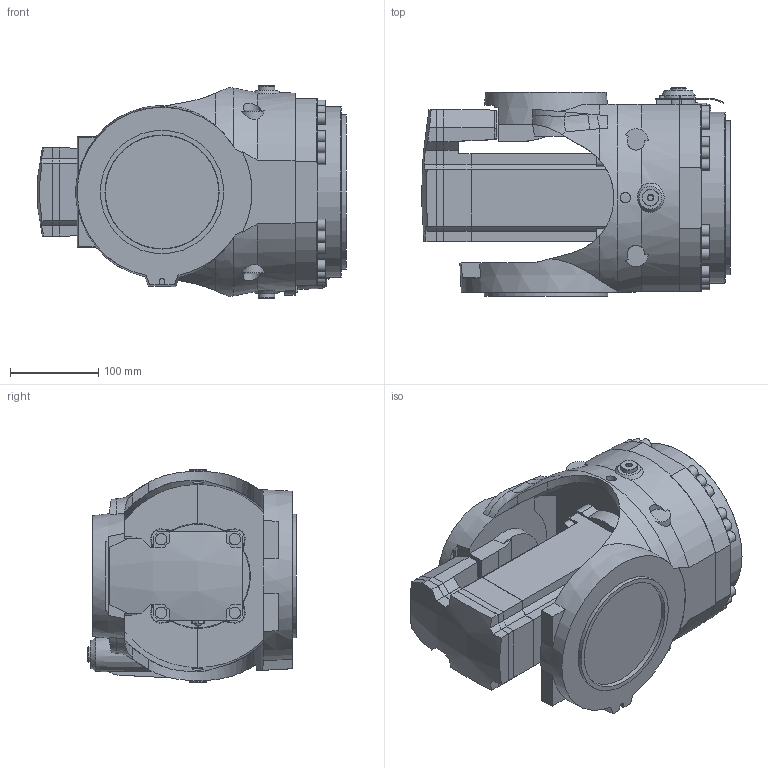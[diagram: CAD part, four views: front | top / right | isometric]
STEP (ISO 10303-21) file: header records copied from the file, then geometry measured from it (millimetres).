
FILE_DESCRIPTION (( 'STEP AP214' ), '1' );
FILE_NAME ('IRB77X0_All-330_OC_00_LINK05_CAD.step', '2026-01-28T10:08:33', ( '' ), ( '' ), 'SwSTEP 2.0', 'SolidWorks 2024', '' );
FILE_SCHEMA (( 'AUTOMOTIVE_DESIGN' ));
Length unit declared in the file: millimetre
Products named in the file (1): IRB77X0_All-330_OC_00_LINK05_CAD
Bounding box: 350.39 x 236.5 x 241 mm (x, y, z)
Volume: 7982312.8 mm3; surface area: 496646.4 mm2
Topology: 1 solids, 2 shells, 644 faces, 1725 edges, 1111 vertices
Faces by surface type: plane 390, cylinder 146, cone 70, bspline 35, torus 2, sphere 1
Full cylindrical faces by diameter (mm): 4.8 x2, 5.5 x4, 11.8 x2, 13 x4, 13.27 x24, 17.9 x2, 18 x2, 19 x2, 134 x1, 140 x1, 175 x1, 194 x1
Entity records: 29802 total; most frequent: CARTESIAN_POINT 7873, ORIENTED_EDGE 3194, DIRECTION 2847, EDGE_CURVE 1597, VERTEX_POINT 1056, AXIS2_PLACEMENT_3D 1014, VECTOR 819, LINE 819
